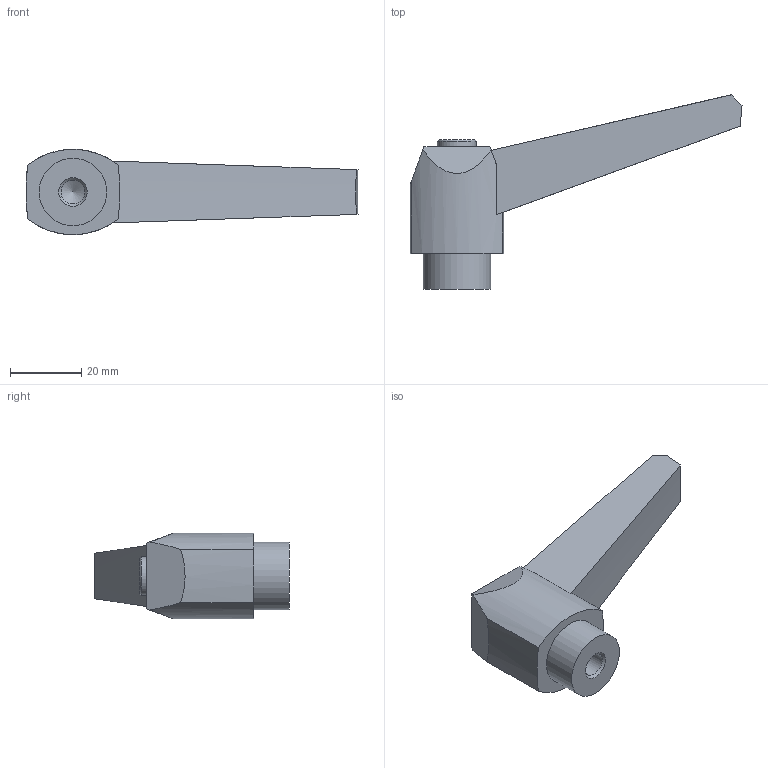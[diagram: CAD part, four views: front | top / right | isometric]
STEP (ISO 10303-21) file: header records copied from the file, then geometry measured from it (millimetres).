
FILE_DESCRIPTION( ( 'STEP AP203' ), '1' );
FILE_NAME( 'C:/Temp/Ganter_Step_05_03_2020/data/2_1/gn_500/gn_500_mb/Adjustable hand lever GN 500-80-M8-SW.stp', '2020-03-05T11:26:29', ( 'License CC BY-ND 4.0' ), ( 'CADENAS' ), ' ', 'PARTsolutions', ' ' );
FILE_SCHEMA( ( 'CONFIG_CONTROL_DESIGN' ) );
Length unit declared in the file: millimetre
Products named in the file (1): _Adjustable hand lever GN 500-80-M8-SW
Bounding box: 93.3 x 54.58 x 24 mm (x, y, z)
Volume: 32127.3 mm3; surface area: 8257.8 mm2
Topology: 1 solids, 1 shells, 24 faces, 58 edges, 38 vertices
Faces by surface type: plane 10, cone 7, cylinder 7
Full cylindrical faces by diameter (mm): 6.647 x1, 11 x1, 19 x1
Entity records: 713 total; most frequent: CARTESIAN_POINT 125, DIRECTION 118, ORIENTED_EDGE 100, EDGE_CURVE 50, AXIS2_PLACEMENT_3D 47, VERTEX_POINT 37, EDGE_LOOP 32, FACE_OUTER_BOUND 27
